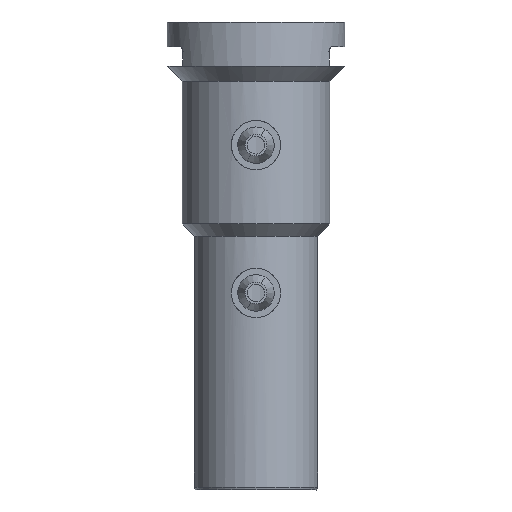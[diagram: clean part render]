
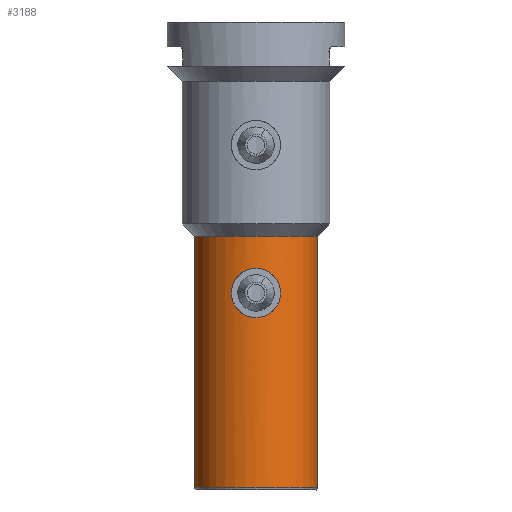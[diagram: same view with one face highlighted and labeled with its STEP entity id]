
A CAD part, front view. The second image highlights one B-rep face of the part: STEP entity #3188.
In plain terms, the highlighted cylindrical face has radius 6.25 mm (diameter 12.5 mm), a partial arc.
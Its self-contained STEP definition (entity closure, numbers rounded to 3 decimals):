
#2827=CARTESIAN_POINT('Vertex',(6.25,0.,15.75)) ;
#2834=CARTESIAN_POINT('Vertex',(-6.25,0.,15.75)) ;
#2946=CARTESIAN_POINT('Axis2P3D Location',(0.,0.,15.75)) ;
#3072=CARTESIAN_POINT('Axis2P3D Location',(0.,0.,1.)) ;
#3081=CARTESIAN_POINT('Vertex',(-6.25,0.,-9.7)) ;
#3086=CARTESIAN_POINT('Line Origine',(-6.25,0.,-4.)) ;
#3091=CARTESIAN_POINT('Line Origine',(6.25,0.,-4.)) ;
#3095=CARTESIAN_POINT('Vertex',(6.25,0.,-9.7)) ;
#3135=CARTESIAN_POINT('Axis2P3D Location',(0.,0.,-9.7)) ;
#3147=CARTESIAN_POINT('Control Point',(-2.5,-5.728,10.)) ;
#3148=CARTESIAN_POINT('Control Point',(-2.5,-5.728,9.758)) ;
#3149=CARTESIAN_POINT('Control Point',(-2.471,-5.741,9.515)) ;
#3150=CARTESIAN_POINT('Control Point',(-2.412,-5.767,9.279)) ;
#3151=CARTESIAN_POINT('Control Point',(-2.159,-5.872,8.613)) ;
#3152=CARTESIAN_POINT('Control Point',(-1.691,-6.032,8.071)) ;
#3153=CARTESIAN_POINT('Control Point',(-1.305,-6.136,7.789)) ;
#3154=CARTESIAN_POINT('Control Point',(-0.524,-6.262,7.467)) ;
#3155=CARTESIAN_POINT('Control Point',(0.319,-6.258,7.481)) ;
#3156=CARTESIAN_POINT('Control Point',(0.676,-6.228,7.554)) ;
#3157=CARTESIAN_POINT('Control Point',(1.491,-6.1,7.877)) ;
#3158=CARTESIAN_POINT('Control Point',(2.103,-5.901,8.509)) ;
#3159=CARTESIAN_POINT('Control Point',(2.366,-5.787,8.966)) ;
#3160=CARTESIAN_POINT('Control Point',(2.5,-5.728,9.483)) ;
#3161=CARTESIAN_POINT('Control Point',(2.5,-5.728,10.)) ;
#3162=CARTESIAN_POINT('Vertex',(-2.5,-5.728,10.)) ;
#3164=CARTESIAN_POINT('Vertex',(2.5,-5.728,10.)) ;
#3168=CARTESIAN_POINT('Control Point',(-2.5,-5.728,10.)) ;
#3169=CARTESIAN_POINT('Control Point',(-2.5,-5.728,10.242)) ;
#3170=CARTESIAN_POINT('Control Point',(-2.471,-5.741,10.485)) ;
#3171=CARTESIAN_POINT('Control Point',(-2.412,-5.767,10.721)) ;
#3172=CARTESIAN_POINT('Control Point',(-2.159,-5.872,11.387)) ;
#3173=CARTESIAN_POINT('Control Point',(-1.691,-6.032,11.929)) ;
#3174=CARTESIAN_POINT('Control Point',(-1.305,-6.136,12.211)) ;
#3175=CARTESIAN_POINT('Control Point',(-0.524,-6.262,12.533)) ;
#3176=CARTESIAN_POINT('Control Point',(0.319,-6.258,12.519)) ;
#3177=CARTESIAN_POINT('Control Point',(0.676,-6.228,12.446)) ;
#3178=CARTESIAN_POINT('Control Point',(1.491,-6.1,12.123)) ;
#3179=CARTESIAN_POINT('Control Point',(2.103,-5.901,11.491)) ;
#3180=CARTESIAN_POINT('Control Point',(2.366,-5.787,11.034)) ;
#3181=CARTESIAN_POINT('Control Point',(2.5,-5.728,10.517)) ;
#3182=CARTESIAN_POINT('Control Point',(2.5,-5.728,10.)) ;
#2947=DIRECTION('Axis2P3D Direction',(0.,0.,1.)) ;
#3073=DIRECTION('Axis2P3D Direction',(0.,0.,-1.)) ;
#3074=DIRECTION('Axis2P3D XDirection',(1.,0.,0.)) ;
#3087=DIRECTION('Vector Direction',(0.,0.,-1.)) ;
#3092=DIRECTION('Vector Direction',(0.,0.,-1.)) ;
#3136=DIRECTION('Axis2P3D Direction',(0.,0.,-1.)) ;
#2948=AXIS2_PLACEMENT_3D('Circle Axis2P3D',#2946,#2947,$) ;
#3075=AXIS2_PLACEMENT_3D('Cylinder Axis2P3D',#3072,#3073,#3074) ;
#3137=AXIS2_PLACEMENT_3D('Circle Axis2P3D',#3135,#3136,$) ;
#3141=ORIENTED_EDGE('',*,*,#3097,.T.) ;
#3142=ORIENTED_EDGE('',*,*,#2950,.T.) ;
#3143=ORIENTED_EDGE('',*,*,#3090,.F.) ;
#3144=ORIENTED_EDGE('',*,*,#3139,.F.) ;
#3185=ORIENTED_EDGE('',*,*,#3166,.F.) ;
#3186=ORIENTED_EDGE('',*,*,#3183,.T.) ;
#3187=FACE_BOUND('',#3184,.T.) ;
#3088=VECTOR('Line Direction',#3087,1.) ;
#3093=VECTOR('Line Direction',#3092,1.) ;
#3188=ADVANCED_FACE('\X2\96F64EF651E04F554F53\X0\',(#3145,#3187),#3076,.T.) ;
#3146=B_SPLINE_CURVE_WITH_KNOTS('',5,(#3147,#3148,#3149,#3150,#3151,#3152,#3153,#3154,#3155,#3156,#3157,#3158,#3159,#3160,#3161),.UNSPECIFIED.,.F.,.U.,(6,3,3,3,6),(0.,1.714,5.052,7.571,11.226),.UNSPECIFIED.) ;
#3167=B_SPLINE_CURVE_WITH_KNOTS('',5,(#3168,#3169,#3170,#3171,#3172,#3173,#3174,#3175,#3176,#3177,#3178,#3179,#3180,#3181,#3182),.UNSPECIFIED.,.F.,.U.,(6,3,3,3,6),(0.,1.714,5.052,7.571,11.226),.UNSPECIFIED.) ;
#2949=CIRCLE('generated circle',#2948,6.25) ;
#3138=CIRCLE('generated circle',#3137,6.25) ;
#3076=CYLINDRICAL_SURFACE('generated cylinder',#3075,6.25) ;
#2950=EDGE_CURVE('',#2828,#2835,#2949,.F.) ;
#3090=EDGE_CURVE('',#3082,#2835,#3089,.F.) ;
#3097=EDGE_CURVE('',#3096,#2828,#3094,.F.) ;
#3139=EDGE_CURVE('',#3096,#3082,#3138,.T.) ;
#3166=EDGE_CURVE('',#3163,#3165,#3146,.T.) ;
#3183=EDGE_CURVE('',#3163,#3165,#3167,.T.) ;
#3140=EDGE_LOOP('',(#3141,#3142,#3143,#3144)) ;
#3184=EDGE_LOOP('',(#3185,#3186)) ;
#3145=FACE_OUTER_BOUND('',#3140,.T.) ;
#3089=LINE('Line',#3086,#3088) ;
#3094=LINE('Line',#3091,#3093) ;
#2828=VERTEX_POINT('',#2827) ;
#2835=VERTEX_POINT('',#2834) ;
#3082=VERTEX_POINT('',#3081) ;
#3096=VERTEX_POINT('',#3095) ;
#3163=VERTEX_POINT('',#3162) ;
#3165=VERTEX_POINT('',#3164) ;
